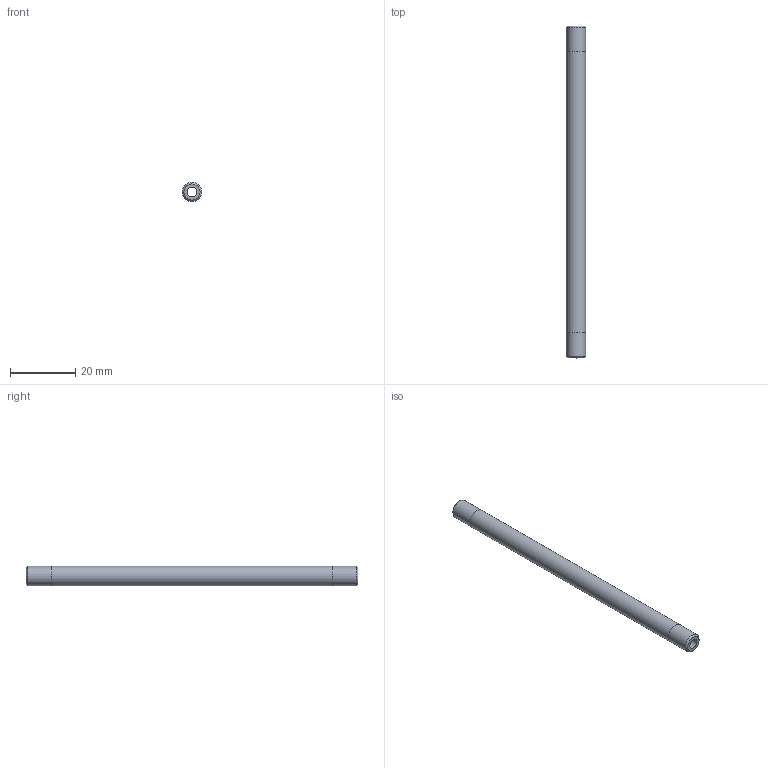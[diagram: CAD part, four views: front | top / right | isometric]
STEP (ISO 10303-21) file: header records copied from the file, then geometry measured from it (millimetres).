
FILE_DESCRIPTION(/* description */ (''),/* implementation_level */ '2;1');
FILE_NAME(/* name */ 'C:/Users/drich/Desktop/cad/Cascades/Jet Cool/Components/Outer Tubes/Threaded Type/JCT-M6-T- v1.step',/* time_stamp */ '2020-01-10T15:17:44-06:00',/* author */ (''),/* organization */ (''),/* preprocessor_version */ 'ST-DEVELOPER v18',/* originating_system */ 'Autodesk Translation Framework v8.12.0.6',/* authorisation */ '');
FILE_SCHEMA (('AUTOMOTIVE_DESIGN { 1 0 10303 214 3 1 1 }'));
Length unit declared in the file: inch
Products named in the file (1): JCT-M6-T-
Bounding box: 5.99 x 101.6 x 5.99 mm (x, y, z)
Volume: 2138.4 mm3; surface area: 2898 mm2
Topology: 1 solids, 1 shells, 10 faces, 24 edges, 18 vertices
Faces by surface type: cylinder 4, plane 4, cone 2
Full cylindrical faces by diameter (mm): 2.997 x1, 5.944 x2, 5.994 x1
Entity records: 360 total; most frequent: DIRECTION 64, CARTESIAN_POINT 53, ORIENTED_EDGE 48, AXIS2_PLACEMENT_3D 29, EDGE_CURVE 24, CIRCLE 18, VERTEX_POINT 18, EDGE_LOOP 14
